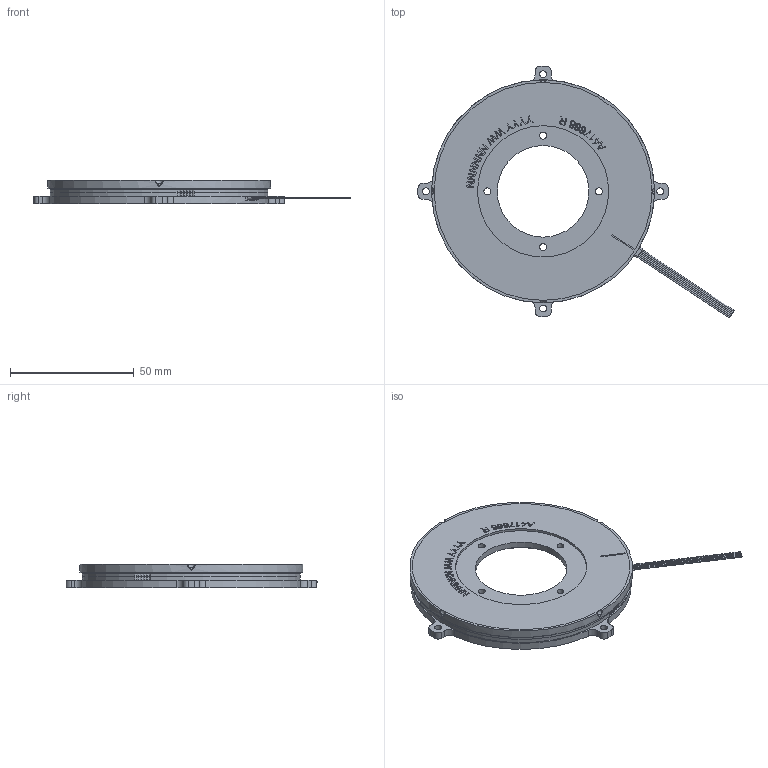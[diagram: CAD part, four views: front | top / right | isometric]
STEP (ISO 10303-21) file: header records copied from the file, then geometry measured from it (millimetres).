
FILE_DESCRIPTION(/* description */ ('Unknown','CAx-IF Rec.Pracs.---Representation and Presentation of Product Manufacturing Information (PMI)---4.0---2014-10-13','CAx-IF Rec.Pracs.---3D Tessellated Geometry---0.4---2014-09-14','2;1'),/* implementation_level */ '2;1');
FILE_NAME(/* name */ 'A417668',/* time_stamp */ '2020-05-06T09:49:21+02:00',/* author */ ('Unknown'),/* organization */ ('Unknown'),/* preprocessor_version */ 'ST-DEVELOPER v16.7',/* originating_system */ 'DEX',/* authorisation */ $);
FILE_SCHEMA (('AP242_MANAGED_MODEL_BASED_3D_ENGINEERING_MIM_LF { 1 0 10303 442 1 1 4 }'));
Length unit declared in the file: millimetre
Products named in the file (20): A417668; 682477_oa_0; 600000_oa_1; 675868_oa_2; 676362_oa_3; CI_simplifié; Composants; 652168; 132206_Fil Alim+_rouge; 731454_oa_4; 731453_oa_5; 731452_oa_6; Pistes magnétiques moulées; 132207_Fil Clk+_blanc; 132208_Fil Clk-_transparent; 132210_Fil Data+_vert; 132209_Fil Data-_jaune; 132205_Fil GND_noir; 737992_Manchon thermorétractable; 790240_Potting
Assembly tree (21 placements, depth 5):
  A417668
    682477_oa_0
    600000_oa_1
      675868_oa_2
        676362_oa_3
          CI_simplifié
        Composants
    652168  x3
    132206_Fil Alim+_rouge
    731454_oa_4
      731453_oa_5
        731452_oa_6
      Pistes magnétiques moulées
    132207_Fil Clk+_blanc
    132208_Fil Clk-_transparent
    132210_Fil Data+_vert
    132209_Fil Data-_jaune
    132205_Fil GND_noir
    737992_Manchon thermorétractable
    790240_Potting
Bounding box: 127.67 x 101.6 x 9.5 mm (x, y, z)
Volume: 38804.6 mm3; surface area: 49540.7 mm2
Topology: 16 solids, 16 shells, 733 faces, 1883 edges, 1250 vertices
Faces by surface type: plane 489, cylinder 118, bspline 108, cone 10, torus 8
Full cylindrical faces by diameter (mm): 0.5 x9, 1.221 x3, 1.6 x3, 1.8 x3, 2.8 x11, 3.5 x6, 37 x1, 53 x1, 53.4 x1, 54.4 x3, 56 x2, 67.83 x1, 88 x2, 90 x1
Entity records: 30245 total; most frequent: CARTESIAN_POINT 11051, ORIENTED_EDGE 3480, DIRECTION 3106, EDGE_CURVE 1740, LINE 1244, VECTOR 1244, VERTEX_POINT 1200, AXIS2_PLACEMENT_3D 931
